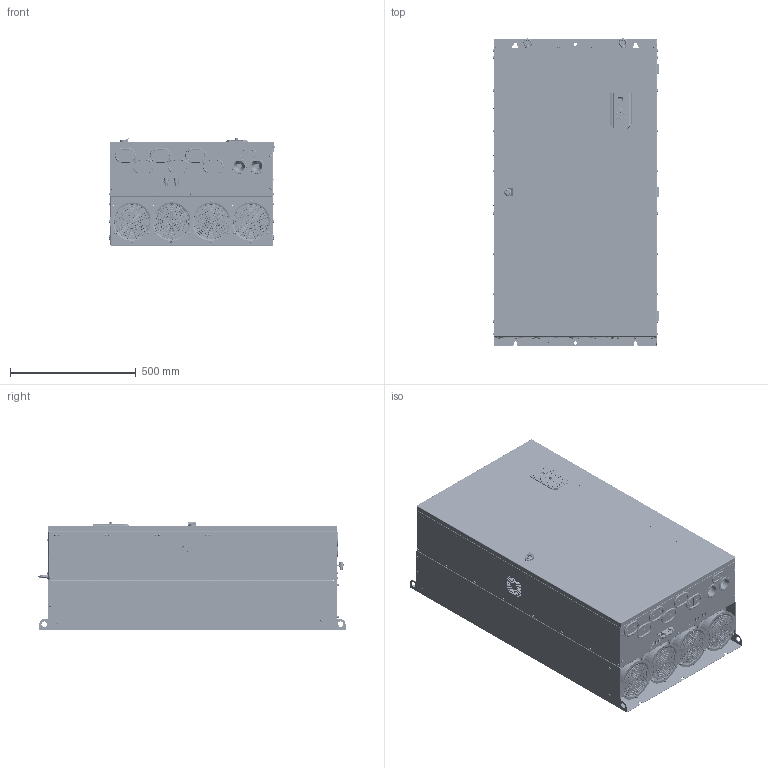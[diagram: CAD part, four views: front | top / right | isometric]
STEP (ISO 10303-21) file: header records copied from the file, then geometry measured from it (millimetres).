
FILE_DESCRIPTION((''),'2;1');
FILE_NAME('AD800-D9-DRIVE_ASM','2024-12-12T14:07:29',('Optimus Drive'),(''),'CREO PARAMETRIC BY PTC INC, 2018100','CREO PARAMETRIC BY PTC INC, 2018100','');
FILE_SCHEMA(('CONFIG_CONTROL_DESIGN','GEOMETRIC_VALIDATION_PROPERTIES_MIM'));
Products named in the file (95): D9-MECHANICAL-PART; PRT0001_7; 17251-5YE-2B_1; 17251_ASM_ASM; M0200005; M0202040; M0202034; M0202055; M0202054; M12-25; M0202068; M0202067; M0202037_ASM; M10-25; M10-SPRING_FLAT; M10-WASHER; M0202036_ASM; M0202007; M0100015; M0202003; M0202014; P_FHS_5_12_; RIVETING-NUT-4_; M0204033; M0202002; M3-SPRING_FLAT; M3-WASHER; M0202002_ASM; FASTEN_D9_ASM; M0104030; M0204023; M0204014; M0104149; E0100736; E0400142; E0400150; E0400073; E0400116; E0400023; E0100736_ASM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
Assembly tree (599 placements, depth 5):
  AD800-D9-DRIVE_ASM
    D9-MECHANICAL-PART
    17251_ASM_ASM  x4
      PRT0001_7
      17251-5YE-2B_1
    M0200005  x4
    FASTEN_D9_ASM
      M0202040  x16
      M0202034  x39
      M0202055  x2
      M0202054  x2
      M0202037_ASM  x14
        M12-25
        M0202068
        M0202067
      M0202036_ASM  x2
        M10-25
        M10-SPRING_FLAT
        M10-WASHER
      M0202007  x60
      M0100015  x2
      M0202003  x8
      M0202014
      P_FHS_5_12_  x12
      RIVETING-NUT-4_  x14
      M0204033
      M0202002_ASM  x2
        M0202002
        M3-SPRING_FLAT
        M3-WASHER
    M0104030
    M0204023  x6
    M0204014  x3
    CU04-ASSY_ASM
      M0104149
      E0100736_ASM
        E0100736
        E0400142
        E0400150
        E0400073  x2
        E0400116
        E0400023
      E0200416
      M0104143
      E0400117
      E0100735_ASM
        E0100735
        0603  x193
        SOT-23  x51
        SO-14  x2
        E0300000
        SOD-6  x4
        E0300008  x2
        LQFP64
        E0400116
        1206  x32
        SMD3215-2P
        0805  x20
        SO-8  x2
        P3_5_3_2_
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Bounding box: 662.2 x 1222.9 x 434 mm (x, y, z)
Volume: 9395865 mm3; surface area: 9392398.7 mm2
Topology: 848 solids, 966 shells, 50988 faces, 132295 edges, 84488 vertices
Faces by surface type: plane 27348, cylinder 12398, bspline 5716, torus 1777, cone 1607, extrusion 1607, sphere 535
Entity records: 979328 total; most frequent: CARTESIAN_POINT 220213, ORIENTED_EDGE 123244, DIRECTION 111461, EDGE_CURVE 61825, PRESENTATION_STYLE_ASSIGNMENT 44971, VECTOR 44299, LINE 42701, STYLED_ITEM 42339
